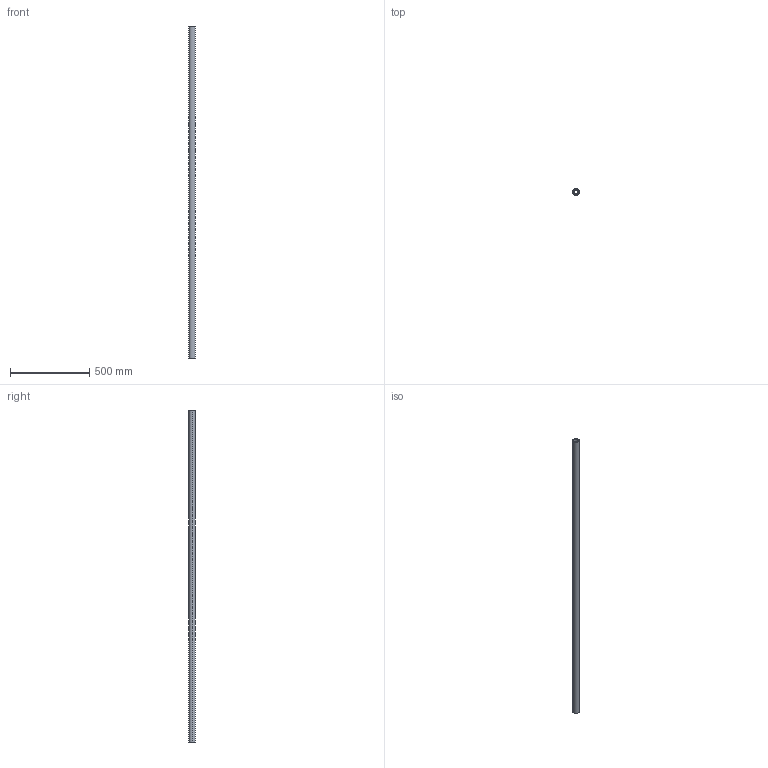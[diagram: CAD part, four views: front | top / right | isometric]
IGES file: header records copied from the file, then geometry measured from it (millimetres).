
Start section: SolidWorks IGES file using analytic representation for surfaces
Global section: file name: C:\Users\IanO\Desktop\L1771_v2\L1771.40_v2\L1771.40_v2_20230705_IGES\L1771.40-2100.igs; native system: SolidWorks 2019; preprocessor: SolidWorks 2019; author: IanO; date: 230705.161030; units: millimetre
Bounding box: 40 x 40 x 2100 mm (x, y, z)
Surface area: 449901.2 mm2 (no closed solid volume)
Topology: 0 solids, 0 shells, 6 faces, 272 edges, 272 vertices
Faces by surface type: revolution 4, bspline 2
